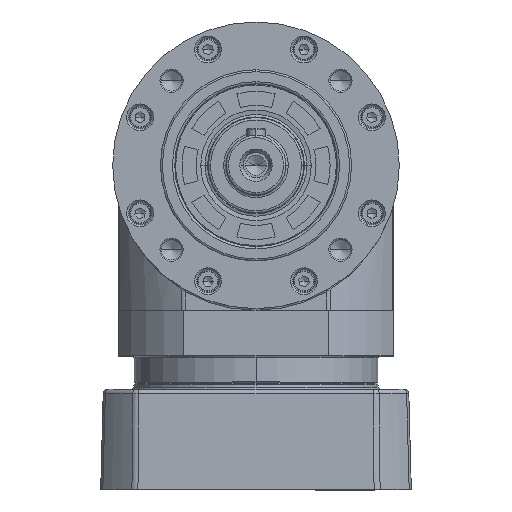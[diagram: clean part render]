
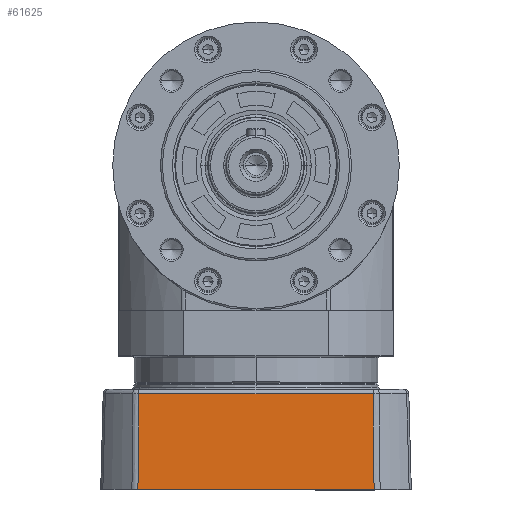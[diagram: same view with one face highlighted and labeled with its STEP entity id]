
A CAD part, top view. The second image highlights one B-rep face of the part: STEP entity #61625.
In plain terms, the highlighted planar face has unit normal (0, 0.026, 1).
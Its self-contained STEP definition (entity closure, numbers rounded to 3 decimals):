
#1115 = EDGE_LOOP ( 'NONE', ( #69948, #30434, #49348, #78031 ) ) ;
#1598 = EDGE_CURVE ( 'NONE', #30369, #64419, #78372, .T. ) ;
#4230 = EDGE_CURVE ( 'NONE', #50983, #22265, #48885, .T. ) ;
#7799 = CARTESIAN_POINT ( 'NONE',  ( 24.895, -88.568, 104.297 ) ) ;
#8434 = LINE ( 'NONE', #27256, #15102 ) ;
#11085 = VECTOR ( 'NONE', #62288, 1000. ) ;
#12252 = AXIS2_PLACEMENT_3D ( 'NONE', #59425, #71510, #27726 ) ;
#15102 = VECTOR ( 'NONE', #33937, 1000. ) ;
#22265 = VERTEX_POINT ( 'NONE', #58123 ) ;
#26082 = PLANE ( 'NONE',  #12252 ) ;
#27256 = CARTESIAN_POINT ( 'NONE',  ( 26.664, -128.62, 105.346 ) ) ;
#27726 = DIRECTION ( 'NONE',  ( 0., 1., -0.026 ) ) ;
#27887 = CARTESIAN_POINT ( 'NONE',  ( 24.895, -88.568, 104.297 ) ) ;
#30369 = VERTEX_POINT ( 'NONE', #7799 ) ;
#30434 = ORIENTED_EDGE ( 'NONE', *, *, #4230, .F. ) ;
#33937 = DIRECTION ( 'NONE',  ( -1., 0., 0. ) ) ;
#37967 = EDGE_CURVE ( 'NONE', #22265, #30369, #73956, .T. ) ;
#41804 = CARTESIAN_POINT ( 'NONE',  ( -73.551, -128.62, 105.346 ) ) ;
#42745 = CARTESIAN_POINT ( 'NONE',  ( -73.551, -128.62, 105.346 ) ) ;
#47325 = EDGE_CURVE ( 'NONE', #64419, #50983, #8434, .T. ) ;
#48472 = DIRECTION ( 'NONE',  ( 0.009, 1., -0.026 ) ) ;
#48885 = LINE ( 'NONE', #41804, #72213 ) ;
#49348 = ORIENTED_EDGE ( 'NONE', *, *, #47325, .F. ) ;
#50983 = VERTEX_POINT ( 'NONE', #42745 ) ;
#58123 = CARTESIAN_POINT ( 'NONE',  ( -73.178, -88.568, 104.297 ) ) ;
#59425 = CARTESIAN_POINT ( 'NONE',  ( 26.664, -128.62, 105.346 ) ) ;
#61276 = VECTOR ( 'NONE', #72889, 1000. ) ;
#61625 = ADVANCED_FACE ( 'NONE', ( #64030 ), #26082, .F. ) ;
#62288 = DIRECTION ( 'NONE',  ( 1., 0., 0. ) ) ;
#62867 = CARTESIAN_POINT ( 'NONE',  ( 25.268, -128.62, 105.346 ) ) ;
#64030 = FACE_OUTER_BOUND ( 'NONE', #1115, .T. ) ;
#64419 = VERTEX_POINT ( 'NONE', #62867 ) ;
#69948 = ORIENTED_EDGE ( 'NONE', *, *, #37967, .F. ) ;
#71510 = DIRECTION ( 'NONE',  ( 0., -0.026, -1. ) ) ;
#72213 = VECTOR ( 'NONE', #48472, 1000. ) ;
#72889 = DIRECTION ( 'NONE',  ( 0.009, -1., 0.026 ) ) ;
#73956 = LINE ( 'NONE', #74787, #11085 ) ;
#74787 = CARTESIAN_POINT ( 'NONE',  ( 26.664, -88.568, 104.297 ) ) ;
#78031 = ORIENTED_EDGE ( 'NONE', *, *, #1598, .F. ) ;
#78372 = LINE ( 'NONE', #27887, #61276 ) ;
